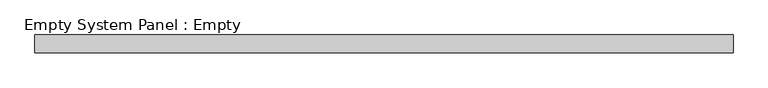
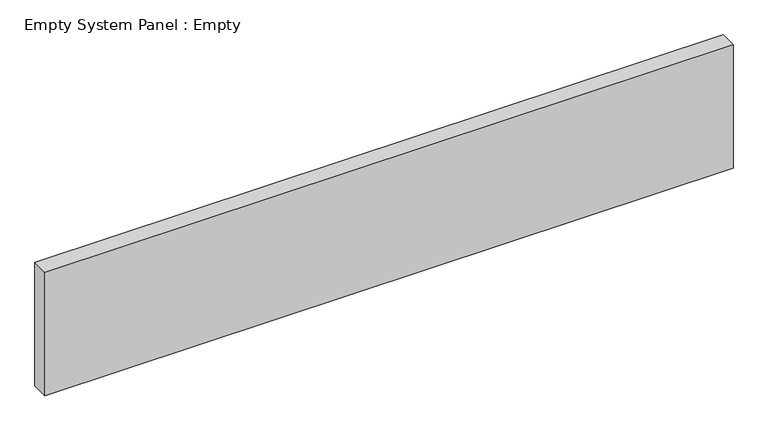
"""IFC4 building model written with IfcOpenShell, lengths in millimetres: plate geometry, Empty System Panel : Empty."""

from ifc_helpers import new_model, si_unit, origin, origin_with_axes, place, context, project, spatial, polyline, outline, extrude, source, transform, mapped, element, save


def empty_system_panel_empty_d218ae45(model_context):
    return source(origin(), model_context, "Body", "SweptSolid", [
        extrude(outline(polyline([(1972.5, -50.0), (-1972.5, -50.0), (-1972.5, 50.0), (1972.5, 50.0), (1972.5, -50.0)])), origin_with_axes(), (0.0, 0.0, 1.0), 748.2),
    ])


if __name__ == "__main__":
    model = new_model("IFC4")
    model_context = context("Model", 3, world=origin())
    ifc_project = project(units=[si_unit("LENGTHUNIT", "METRE", prefix="MILLI")], contexts=[model_context])
    site = spatial("IfcSite", under=ifc_project)
    building = spatial("IfcBuilding", under=site)
    placement = place(None, origin())
    empty_system_panel_empty_shape = empty_system_panel_empty_d218ae45(model_context)
    element("IfcPlate", 1, ObjectType="Empty System Panel : Empty", at=placement, inside=building, context=model_context, shape_type="MappedRepresentation", body=[
        mapped(empty_system_panel_empty_shape, transform((0.0, 0.0, 0.0), x_axis=(1.0, 0.0, 0.0), y_axis=(0.0, 1.0, 0.0), z_axis=(0.0, 0.0, 1.0))),
    ])
    save(model, "model.ifc")
